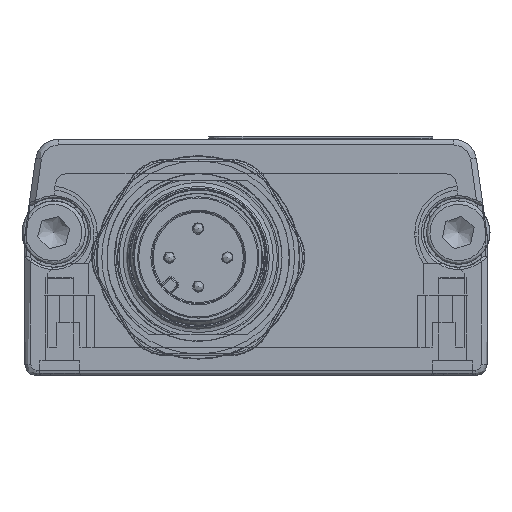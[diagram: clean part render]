
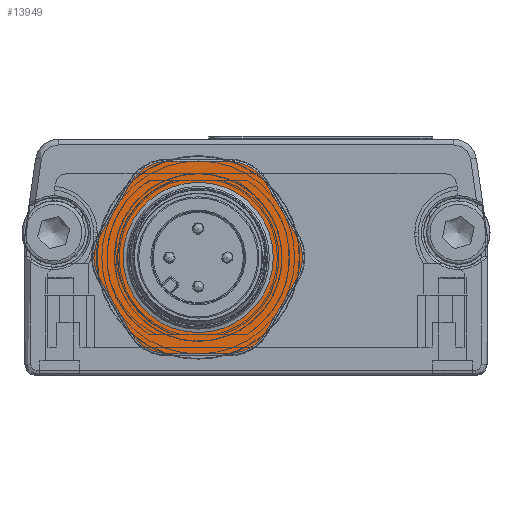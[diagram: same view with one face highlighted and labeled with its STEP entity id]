
A CAD part, front view. The second image highlights one B-rep face of the part: STEP entity #13949.
In plain terms, the highlighted planar face has unit normal (0, -1, 0).
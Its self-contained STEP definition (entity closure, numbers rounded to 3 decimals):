
#191=FACE_BOUND('',#2379,.T.);
#620=CIRCLE('',#14891,3.6);
#625=CIRCLE('',#14898,3.6);
#628=CIRCLE('',#14903,3.6);
#631=CIRCLE('',#14908,3.6);
#635=CIRCLE('',#14914,3.6);
#639=CIRCLE('',#14920,3.6);
#640=CIRCLE('',#14928,6.5);
#641=CIRCLE('',#14929,6.5);
#1084=PLANE('',#14927);
#1610=FACE_OUTER_BOUND('',#2378,.T.);
#2378=EDGE_LOOP('',(#10387,#10388,#10389,#10390,#10391,#10392,#10393,#10394,
#10395,#10396,#10397,#10398));
#2379=EDGE_LOOP('',(#10399,#10400));
#3577=LINE('',#24549,#4640);
#3578=LINE('',#24557,#4641);
#3579=LINE('',#24565,#4642);
#3580=LINE('',#24573,#4643);
#3582=LINE('',#24585,#4645);
#3583=LINE('',#24593,#4646);
#4640=VECTOR('',#17125,10.);
#4641=VECTOR('',#17136,10.);
#4642=VECTOR('',#17147,10.);
#4643=VECTOR('',#17158,10.);
#4645=VECTOR('',#17172,10.);
#4646=VECTOR('',#17183,10.);
#5920=VERTEX_POINT('',#24538);
#5921=VERTEX_POINT('',#24540);
#5923=VERTEX_POINT('',#24546);
#5924=VERTEX_POINT('',#24551);
#5925=VERTEX_POINT('',#24555);
#5926=VERTEX_POINT('',#24559);
#5927=VERTEX_POINT('',#24563);
#5928=VERTEX_POINT('',#24567);
#5929=VERTEX_POINT('',#24571);
#5930=VERTEX_POINT('',#24575);
#5932=VERTEX_POINT('',#24581);
#5934=VERTEX_POINT('',#24587);
#5936=VERTEX_POINT('',#24606);
#5937=VERTEX_POINT('',#24607);
#7523=EDGE_CURVE('',#5920,#5921,#620,.T.);
#7528=EDGE_CURVE('',#5921,#5923,#3577,.T.);
#7530=EDGE_CURVE('',#5923,#5924,#625,.T.);
#7532=EDGE_CURVE('',#5924,#5925,#3578,.T.);
#7534=EDGE_CURVE('',#5925,#5926,#628,.T.);
#7536=EDGE_CURVE('',#5926,#5927,#3579,.T.);
#7538=EDGE_CURVE('',#5927,#5928,#631,.T.);
#7540=EDGE_CURVE('',#5928,#5929,#3580,.T.);
#7543=EDGE_CURVE('',#5929,#5930,#635,.T.);
#7546=EDGE_CURVE('',#5930,#5932,#3582,.T.);
#7549=EDGE_CURVE('',#5932,#5934,#639,.T.);
#7550=EDGE_CURVE('',#5934,#5920,#3583,.T.);
#7557=EDGE_CURVE('',#5936,#5937,#640,.T.);
#7558=EDGE_CURVE('',#5937,#5936,#641,.T.);
#10387=ORIENTED_EDGE('',*,*,#7523,.F.);
#10388=ORIENTED_EDGE('',*,*,#7550,.F.);
#10389=ORIENTED_EDGE('',*,*,#7549,.F.);
#10390=ORIENTED_EDGE('',*,*,#7546,.F.);
#10391=ORIENTED_EDGE('',*,*,#7543,.F.);
#10392=ORIENTED_EDGE('',*,*,#7540,.F.);
#10393=ORIENTED_EDGE('',*,*,#7538,.F.);
#10394=ORIENTED_EDGE('',*,*,#7536,.F.);
#10395=ORIENTED_EDGE('',*,*,#7534,.F.);
#10396=ORIENTED_EDGE('',*,*,#7532,.F.);
#10397=ORIENTED_EDGE('',*,*,#7530,.F.);
#10398=ORIENTED_EDGE('',*,*,#7528,.F.);
#10399=ORIENTED_EDGE('',*,*,#7557,.F.);
#10400=ORIENTED_EDGE('',*,*,#7558,.F.);
#13949=ADVANCED_FACE('',(#1610,#191),#1084,.T.);
#14891=AXIS2_PLACEMENT_3D('',#24541,#17114,#17115);
#14898=AXIS2_PLACEMENT_3D('',#24553,#17130,#17131);
#14903=AXIS2_PLACEMENT_3D('',#24561,#17141,#17142);
#14908=AXIS2_PLACEMENT_3D('',#24569,#17152,#17153);
#14914=AXIS2_PLACEMENT_3D('',#24579,#17165,#17166);
#14920=AXIS2_PLACEMENT_3D('',#24591,#17179,#17180);
#14927=AXIS2_PLACEMENT_3D('',#24605,#17200,#17201);
#14928=AXIS2_PLACEMENT_3D('',#24608,#17202,#17203);
#14929=AXIS2_PLACEMENT_3D('',#24609,#17204,#17205);
#17114=DIRECTION('center_axis',(0.,1.,0.));
#17115=DIRECTION('ref_axis',(-0.5,0.,-0.866));
#17125=DIRECTION('',(-0.5,0.,0.866));
#17130=DIRECTION('center_axis',(0.,1.,0.));
#17131=DIRECTION('ref_axis',(-1.,0.,0.));
#17136=DIRECTION('',(0.5,0.,0.866));
#17141=DIRECTION('center_axis',(0.,1.,0.));
#17142=DIRECTION('ref_axis',(-0.5,0.,0.866));
#17147=DIRECTION('',(1.,0.,0.));
#17152=DIRECTION('center_axis',(0.,1.,0.));
#17153=DIRECTION('ref_axis',(0.5,0.,0.866));
#17158=DIRECTION('',(0.5,0.,-0.866));
#17165=DIRECTION('center_axis',(0.,1.,0.));
#17166=DIRECTION('ref_axis',(1.,0.,0.));
#17172=DIRECTION('',(-0.5,0.,-0.866));
#17179=DIRECTION('center_axis',(0.,1.,0.));
#17180=DIRECTION('ref_axis',(0.5,0.,-0.866));
#17183=DIRECTION('',(-1.,0.,0.));
#17200=DIRECTION('center_axis',(0.,-1.,0.));
#17201=DIRECTION('ref_axis',(-1.,0.,0.));
#17202=DIRECTION('center_axis',(0.,-1.,0.));
#17203=DIRECTION('ref_axis',(0.,0.,
1.));
#17204=DIRECTION('center_axis',(0.,-1.,0.));
#17205=DIRECTION('ref_axis',(0.,0.,
1.));
#24538=CARTESIAN_POINT('',(-46.428,-12.9,10.329));
#24540=CARTESIAN_POINT('',(-49.546,-12.9,12.129));
#24541=CARTESIAN_POINT('Origin',(-46.428,-12.9,13.929));
#24546=CARTESIAN_POINT('',(-52.26,-12.9,16.829));
#24549=CARTESIAN_POINT('',(-52.13,-12.9,16.604));
#24551=CARTESIAN_POINT('',(-52.26,-12.9,20.429));
#24553=CARTESIAN_POINT('Origin',(-49.142,-12.9,18.629));
#24555=CARTESIAN_POINT('',(-49.546,-12.9,25.129));
#24557=CARTESIAN_POINT('',(-49.676,-12.9,24.904));
#24559=CARTESIAN_POINT('',(-46.428,-12.9,26.929));
#24561=CARTESIAN_POINT('Origin',(-46.428,-12.9,23.329));
#24563=CARTESIAN_POINT('',(-41.001,-12.9,26.929));
#24565=CARTESIAN_POINT('',(-41.261,-12.9,26.929));
#24567=CARTESIAN_POINT('',(-37.884,-12.9,25.129));
#24569=CARTESIAN_POINT('Origin',(-41.001,-12.9,23.329));
#24571=CARTESIAN_POINT('',(-35.17,-12.9,20.429));
#24573=CARTESIAN_POINT('',(-35.3,-12.9,20.654));
#24575=CARTESIAN_POINT('',(-35.17,-12.9,16.829));
#24579=CARTESIAN_POINT('Origin',(-38.288,-12.9,18.629));
#24581=CARTESIAN_POINT('',(-37.884,-12.9,12.129));
#24585=CARTESIAN_POINT('',(-37.754,-12.9,12.354));
#24587=CARTESIAN_POINT('',(-41.001,-12.9,10.329));
#24591=CARTESIAN_POINT('Origin',(-41.001,-12.9,13.929));
#24593=CARTESIAN_POINT('',(-46.169,-12.9,10.329));
#24605=CARTESIAN_POINT('Origin',(-43.715,-12.9,18.629));
#24606=CARTESIAN_POINT('',(-43.715,-12.9,12.129));
#24607=CARTESIAN_POINT('',(-50.215,-12.9,18.629));
#24608=CARTESIAN_POINT('Origin',(-43.715,-12.9,18.629));
#24609=CARTESIAN_POINT('Origin',(-43.715,-12.9,18.629));
